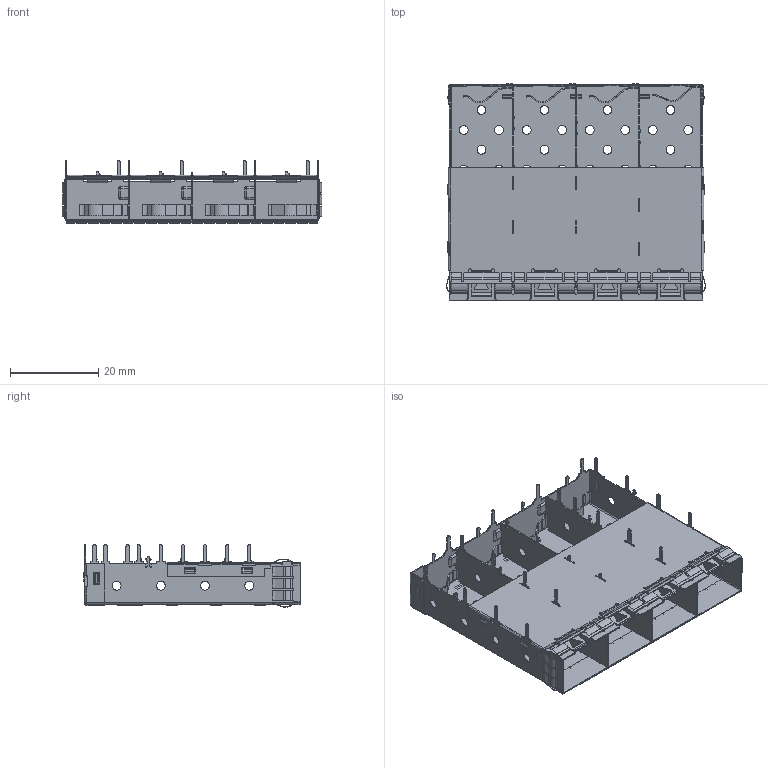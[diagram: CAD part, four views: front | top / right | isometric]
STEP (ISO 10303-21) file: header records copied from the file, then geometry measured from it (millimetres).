
FILE_DESCRIPTION (( 'STEP AP203' ), '1' );
FILE_NAME ('10711214W002 3D.STEP', '2023-12-05T02:08:19', ( '' ), ( '' ), 'SwSTEP 2.0', 'SolidWorks 2016', '' );
FILE_SCHEMA (( 'CONFIG_CONTROL_DESIGN' ));
Length unit declared in the file: millimetre
Products named in the file (10): 聆粟え 023 - 萵掛; 下弹片（下料短）0.78(老样式); 1.20307F00031; 10711214W002 3D; 2.20307F00318; 3.20307F00319; 4.G869-F034; 5.G869-F035; 6.G869-F036; 1X4  奻粟え 023  - 萵掛
Assembly tree (10 placements, depth 2):
  10711214W002 3D
    1.20307F00031
    2.20307F00318
    3.20307F00319
    4.G869-F034
    5.G869-F035
    6.G869-F036
    1X4  奻粟え 023  - 萵掛
    聆粟え 023 - 萵掛  x2
    下弹片（下料短）0.78(老样式)
Bounding box: 58.61 x 48.91 x 14.16 mm (x, y, z)
Volume: 1940.8 mm3; surface area: 17104.8 mm2
Topology: 18 solids, 18 shells, 2689 faces, 7521 edges, 4842 vertices
Faces by surface type: plane 1328, cylinder 1325, bspline 24, sphere 12
Entity records: 88231 total; most frequent: CARTESIAN_POINT 17700, ORIENTED_EDGE 14754, DIRECTION 14609, EDGE_CURVE 7377, AXIS2_PLACEMENT_3D 5044, VERTEX_POINT 4750, VECTOR 4521, LINE 4521
